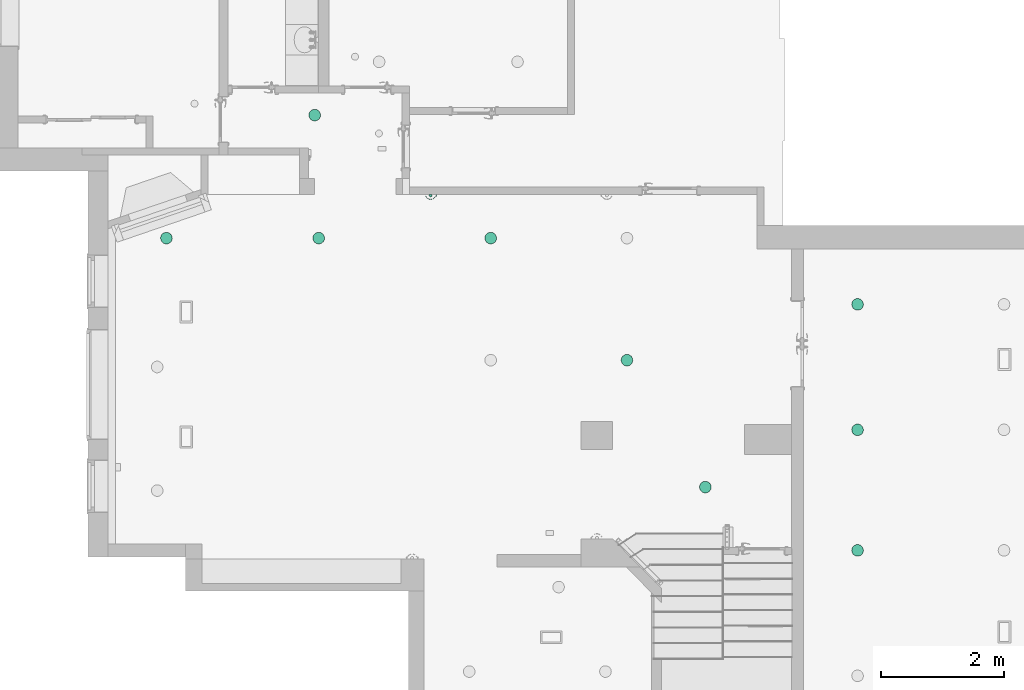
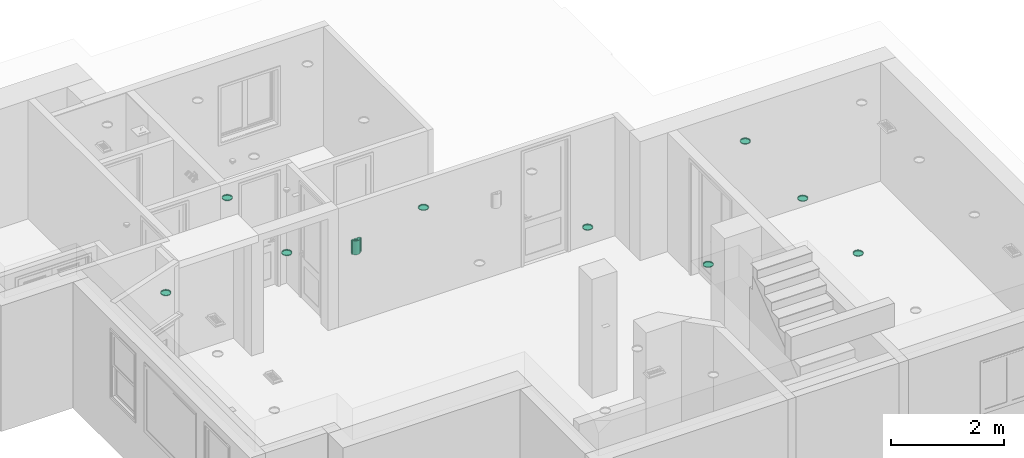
# One storey, part 15 of 24: 10 flow terminals.
"""IFC2X3 building model written with IfcOpenShell, lengths in inches."""

from ifc_helpers import new_model, entity, si_unit, converted_unit, derived_unit, money_unit, direction, frame, origin_with_axes, place, context, subcontext, project, spatial, open_shell, faceted_brep, surface_model, source, transform, mapped, type_object, element, save


model = new_model("IFC2X3")

# Units and contexts
model_context = context("Model", 3, precision=0.000393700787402, world=origin_with_axes(), true_north=direction((0.0, 1.0)))
body_context = subcontext(model_context, "Body", "Model", "MODEL_VIEW")
ifc_project = project(units=[converted_unit("LENGTHUNIT", "INCH", entity("IfcPositiveLengthMeasure", 0.0254), si_unit("LENGTHUNIT", "METRE"), dimensions=[1, 0, 0, 0, 0, 0, 0]), converted_unit("AREAUNIT", "SQUARE_FOOT", entity("IfcPositiveLengthMeasure", 0.09290304), si_unit("AREAUNIT", "SQUARE_METRE"), dimensions=[2, 0, 0, 0, 0, 0, 0]), si_unit("PLANEANGLEUNIT", "RADIAN"), si_unit("SOLIDANGLEUNIT", "STERADIAN"), money_unit("USD"), converted_unit("TIMEUNIT", "Year", entity("IfcTimeMeasure", 31556926.0), si_unit("TIMEUNIT", "SECOND"), dimensions=[0, 0, 1, 0, 0, 0, 0]), si_unit("MASSUNIT", "GRAM", prefix="KILO"), si_unit("THERMODYNAMICTEMPERATUREUNIT", "DEGREE_CELSIUS"), si_unit("LUMINOUSINTENSITYUNIT", "LUMEN"), si_unit("ENERGYUNIT", "JOULE", prefix="MEGA"), derived_unit("THERMALCONDUCTANCEUNIT", [(si_unit("POWERUNIT", "WATT"), 1), (si_unit("LENGTHUNIT", "METRE"), -1), (si_unit("THERMODYNAMICTEMPERATUREUNIT", "KELVIN"), -1)]), derived_unit("SPECIFICHEATCAPACITYUNIT", [(si_unit("ENERGYUNIT", "JOULE"), 1), (si_unit("MASSUNIT", "GRAM", prefix="KILO"), -1), (si_unit("THERMODYNAMICTEMPERATUREUNIT", "KELVIN"), -1)]), derived_unit("MASSDENSITYUNIT", [(si_unit("MASSUNIT", "GRAM", prefix="KILO"), 1), (si_unit("VOLUMEUNIT", "CUBIC_METRE"), -1)])], contexts=[model_context])

# Site, building, storey
site_placement = place(None, origin_with_axes())
site = spatial("IfcSite", under=ifc_project, at=site_placement, Name="Site", CompositionType="ELEMENT")
building_placement = place(site_placement, origin_with_axes())
building = spatial("IfcBuilding", under=site, at=building_placement, Name="Building", CompositionType="ELEMENT")
storey_placement = place(building_placement, origin_with_axes())
storey = spatial("IfcBuildingStorey", under=building, at=storey_placement, Name="First Floor", CompositionType="ELEMENT", Elevation=0.0)

# Flow terminals
light_fixture_type_1 = type_object("IfcLightFixtureType", Name="Recessed Spot 25", PredefinedType="NOTDEFINED")
shared_shape_1 = source(origin_with_axes(), body_context, "Body", "SurfaceModel", [
    faceted_brep([(3.74015748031, 0.0, -0.590551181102), (3.51459838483, 1.27920919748, -0.590551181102), (3.51459838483, 1.27920919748, 0.0), (3.74015748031, 0.0, 0.0), (3.51459838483, -1.27920919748, -0.590551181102), (2.86512685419, -2.40412688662, -0.590551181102), (1.87007874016, -3.23907139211, -0.590551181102), (0.649471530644, -3.6833360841, -0.590551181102), (-0.649471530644, -3.6833360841, -0.590551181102), (-1.87007874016, -3.23907139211, -0.590551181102), (-2.86512685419, -2.40412688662, -0.590551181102), (-3.51459838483, -1.27920919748, -0.590551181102), (-3.74015748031, 0.0, -0.590551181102), (-3.51459838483, 1.27920919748, -0.590551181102), (-2.86512685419, 2.40412688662, -0.590551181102), (-1.87007874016, 3.23907139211, -0.590551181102), (-0.649471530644, 3.6833360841, -0.590551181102), (0.649471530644, 3.6833360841, -0.590551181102), (1.87007874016, 3.23907139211, -0.590551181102), (2.86512685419, 2.40412688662, -0.590551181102), (3.14960629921, 0.0, -0.590551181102), (2.95966179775, 1.07722879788, -0.590551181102), (2.41273840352, 2.02452790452, -0.590551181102), (1.57480314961, 2.72763906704, -0.590551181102), (0.546923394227, 3.1017567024, -0.590551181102), (-0.546923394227, 3.1017567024, -0.590551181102), (-1.57480314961, 2.72763906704, -0.590551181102), (-2.41273840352, 2.02452790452, -0.590551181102), (-2.95966179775, 1.07722879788, -0.590551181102), (-3.14960629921, 0.0, -0.590551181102), (-2.95966179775, -1.07722879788, -0.590551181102), (-2.41273840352, -2.02452790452, -0.590551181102), (-1.57480314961, -2.72763906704, -0.590551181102), (-0.546923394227, -3.1017567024, -0.590551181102), (0.546923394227, -3.1017567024, -0.590551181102), (1.57480314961, -2.72763906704, -0.590551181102), (2.41273840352, -2.02452790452, -0.590551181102), (2.95966179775, -1.07722879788, -0.590551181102), (2.86512685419, 2.40412688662, 0.0), (1.87007874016, 3.23907139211, 0.0), (0.649471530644, 3.6833360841, 0.0), (-0.649471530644, 3.6833360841, 0.0), (-1.87007874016, 3.23907139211, 0.0), (-2.86512685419, 2.40412688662, 0.0), (-3.51459838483, 1.27920919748, 0.0), (-3.74015748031, 0.0, 0.0), (-3.51459838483, -1.27920919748, 0.0), (-2.86512685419, -2.40412688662, 0.0), (-1.87007874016, -3.23907139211, 0.0), (-0.649471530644, -3.6833360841, 0.0), (0.649471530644, -3.6833360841, 0.0), (1.87007874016, -3.23907139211, 0.0), (2.86512685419, -2.40412688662, 0.0), (3.51459838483, -1.27920919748, 0.0), (3.14960629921, 0.0, 0.0), (2.95966179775, -1.07722879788, 0.0), (2.41273840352, -2.02452790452, 0.0), (1.57480314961, -2.72763906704, 0.0), (0.546923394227, -3.1017567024, 0.0), (-0.546923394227, -3.1017567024, 0.0), (-1.57480314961, -2.72763906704, 0.0), (-2.41273840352, -2.02452790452, 0.0), (-2.95966179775, -1.07722879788, 0.0), (-3.14960629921, 0.0, 0.0), (-2.95966179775, 1.07722879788, 0.0), (-2.41273840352, 2.02452790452, 0.0), (-1.57480314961, 2.72763906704, 0.0), (-0.546923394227, 3.1017567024, 0.0), (0.546923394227, 3.1017567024, 0.0), (1.57480314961, 2.72763906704, 0.0), (2.41273840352, 2.02452790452, 0.0), (2.95966179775, 1.07722879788, 0.0)], [[[0, 1, 2, 3]], [[0, 4, 5, 6, 7, 8, 9, 10, 11, 12, 13, 14, 15, 16, 17, 18, 19, 1], [20, 21, 22, 23, 24, 25, 26, 27, 28, 29, 30, 31, 32, 33, 34, 35, 36, 37]], [[1, 19, 38, 2]], [[3, 2, 38, 39, 40, 41, 42, 43, 44, 45, 46, 47, 48, 49, 50, 51, 52, 53], [54, 55, 56, 57, 58, 59, 60, 61, 62, 63, 64, 65, 66, 67, 68, 69, 70, 71]], [[4, 0, 3, 53]], [[5, 4, 53, 52]], [[6, 5, 52, 51]], [[7, 6, 51, 50]], [[8, 7, 50, 49]], [[9, 8, 49, 48]], [[10, 9, 48, 47]], [[11, 10, 47, 46]], [[12, 11, 46, 45]], [[13, 12, 45, 44]], [[14, 13, 44, 43]], [[15, 14, 43, 42]], [[16, 15, 42, 41]], [[17, 16, 41, 40]], [[18, 17, 40, 39]], [[19, 18, 39, 38]], [[21, 20, 54, 71]], [[22, 21, 71, 70]], [[23, 22, 70, 69]], [[24, 23, 69, 68]], [[25, 24, 68, 67]], [[26, 25, 67, 66]], [[27, 26, 66, 65]], [[28, 27, 65, 64]], [[29, 28, 64, 63]], [[30, 29, 63, 62]], [[31, 30, 62, 61]], [[32, 31, 61, 60]], [[33, 32, 60, 59]], [[34, 33, 59, 58]], [[35, 34, 58, 57]], [[36, 35, 57, 56]], [[37, 36, 56, 55]], [[20, 37, 55, 54]]]),
    surface_model("IfcShellBasedSurfaceModel", [(3.14960629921, 0.0, -0.527559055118), (2.95966179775, -1.07722879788, -0.527559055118), (2.41273840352, -2.02452790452, -0.527559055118), (1.57480314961, -2.72763906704, -0.527559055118), (0.546923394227, -3.1017567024, -0.527559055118), (-0.546923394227, -3.1017567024, -0.527559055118), (-1.57480314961, -2.72763906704, -0.527559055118), (-2.41273840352, -2.02452790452, -0.527559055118), (-2.95966179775, -1.07722879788, -0.527559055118), (-3.14960629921, 0.0, -0.527559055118), (-2.95966179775, 1.07722879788, -0.527559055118), (-2.41273840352, 2.02452790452, -0.527559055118), (-1.57480314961, 2.72763906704, -0.527559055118), (-0.546923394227, 3.1017567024, -0.527559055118), (0.546923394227, 3.1017567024, -0.527559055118), (1.57480314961, 2.72763906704, -0.527559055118), (2.41273840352, 2.02452790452, -0.527559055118), (2.95966179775, 1.07722879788, -0.527559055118)], [open_shell([[[0, 1, 2, 3, 4, 5, 6, 7, 8, 9, 10, 11, 12, 13, 14, 15, 16, 17]]])]),
])
for number, where, z_axis, x_axis, name in (
    (1, (769.180563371, 143.034750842, 101.0), (0.0, 0.0, 1.0), (1.0, 0.0, 0.0), "L-03"),
    (2, (534.910431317, 342.454416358, 101.0), (0.0, 0.0, 1.0), (1.0, 0.0, 0.0), "L-03"),
    (3, (769.180563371, 300.121365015, 101.0), (0.0, 0.0, 1.0), (1.0, 0.0, 0.0), "L-03"),
    (4, (422.505793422, 420.990596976, 101.0), (0.0, 0.0, 1.0), (1.0, 0.0, 0.0), "L-03"),
    (5, (769.180563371, 220.003254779, 101.0), (0.0, 0.0, 1.0), (1.0, 0.0, 0.0), "L-03"),
    (6, (425.067911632, 342.454416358, 101.0), (0.0, 0.0, 1.0), (1.0, 0.0, 0.0), "L-03"),
    (7, (327.823817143, 342.454416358, 101.0), (0.0, 0.0, 1.0), (1.0, 0.0, 0.0), "L-03"),
    (8, (621.918305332, 264.501660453, 101.0), (0.0, 0.0, 1.0), (1.0, 0.0, 0.0), "L-03"),
    (9, (671.977393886, 183.468914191, 101.0), (0.0, 0.0, 1.0), (1.0, 0.0, 0.0), "L-03"),
):
    element("IfcFlowTerminal", number, at=place(storey_placement, frame(where, z_axis=z_axis, x_axis=x_axis)), inside=storey, type_object=light_fixture_type_1, Name=name, context=body_context, shape_type="MappedRepresentation", body=[
        mapped(shared_shape_1, transform((0.0, 0.0, 0.0))),
    ])
light_fixture_type_2 = type_object("IfcLightFixtureType", Name="Wall Lamp 25", PredefinedType="NOTDEFINED")
shared_shape_2 = source(origin_with_axes(), body_context, "Body", "Brep", [
    faceted_brep([(-3.93700787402, -1.06299212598, 0.0), (-3.93700787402, -1.06299212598, 11.811023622), (-3.59199112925, -1.06314352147, 11.811023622), (-3.59199112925, -1.06314352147, 0.0), (-3.93700787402, -1.1811023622, 0.0), (-3.93700787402, -1.1811023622, 11.811023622), (-3.54330708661, -1.1811023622, 11.811023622), (-3.38969265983, -1.19623206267, 11.811023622), (-3.24198154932, -1.24103973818, 11.811023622), (-3.10585021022, -1.31380345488, 11.811023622), (-2.98653009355, -1.41172694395, 11.811023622), (-2.66966529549, -1.94556474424, 11.811023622), (-2.25851711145, -2.41069189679, 11.811023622), (-1.76760587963, -2.7906817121, 11.811023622), (-1.2142688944, -3.0721142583, 11.811023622), (-0.618048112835, -3.24505030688, 11.811023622), (0.0, -3.30338235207, 11.811023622), (0.0, -3.14960629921, 11.811023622), (-0.56588522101, -3.09835339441, 11.811023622), (-1.11335337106, -2.94626273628, 11.811023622), (-1.6245867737, -2.6982842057, 11.811023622), (-2.0829470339, -2.3624884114, 11.811023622), (-2.47351654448, -1.94980402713, 11.811023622), (-2.78358398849, -1.47366211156, 11.811023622), (-2.90306916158, -1.32652027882, 11.811023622), (-3.0505358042, -1.20743621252, 11.811023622), (-3.21953891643, -1.12161445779, 11.811023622), (-3.40269225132, -1.07280583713, 11.811023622), (-3.40269225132, -1.07280583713, 0.0), (-3.21953891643, -1.12161445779, 0.0), (-3.0505358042, -1.20743621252, 0.0), (-2.90306916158, -1.32652027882, 0.0), (-2.78358398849, -1.47366211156, 0.0), (-2.47351654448, -1.94980402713, 0.0), (-2.0829470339, -2.3624884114, 0.0), (-1.6245867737, -2.6982842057, 0.0), (-1.11335337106, -2.94626273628, 0.0), (-0.56588522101, -3.09835339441, 0.0), (0.0, -3.14960629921, 0.0), (0.0, -3.30338235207, 0.0), (-0.618048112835, -3.24505030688, 0.0), (-1.2142688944, -3.0721142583, 0.0), (-1.76760587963, -2.7906817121, 0.0), (-2.25851711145, -2.41069189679, 0.0), (-2.66966529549, -1.94556474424, 0.0), (-2.98653009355, -1.41172694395, 0.0), (-3.10585021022, -1.31380345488, 0.0), (-3.24198154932, -1.24103973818, 0.0), (-3.38969265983, -1.19623206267, 0.0), (-3.54330708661, -1.1811023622, 0.0)], [[[0, 1, 2, 3]], [[4, 5, 1, 0]], [[1, 5, 6, 7, 8, 9, 10, 11, 12, 13, 14, 15, 16, 17, 18, 19, 20, 21, 22, 23, 24, 25, 26, 27, 2]], [[3, 2, 27, 28]], [[0, 3, 28, 29, 30, 31, 32, 33, 34, 35, 36, 37, 38, 39, 40, 41, 42, 43, 44, 45, 46, 47, 48, 49, 4]], [[49, 6, 5, 4]], [[48, 7, 6, 49]], [[47, 8, 7, 48]], [[46, 9, 8, 47]], [[45, 10, 9, 46]], [[44, 11, 10, 45]], [[43, 12, 11, 44]], [[42, 13, 12, 43]], [[41, 14, 13, 42]], [[40, 15, 14, 41]], [[39, 16, 15, 40]], [[38, 17, 16, 39]], [[37, 18, 17, 38]], [[36, 19, 18, 37]], [[35, 20, 19, 36]], [[34, 21, 20, 35]], [[33, 22, 21, 34]], [[32, 23, 22, 33]], [[31, 24, 23, 32]], [[30, 25, 24, 31]], [[29, 26, 25, 30]], [[28, 27, 26, 29]]]),
    faceted_brep([(3.93700787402, -1.06299212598, 0.0), (3.59199112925, -1.06314352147, 0.0), (3.59199112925, -1.06314352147, 11.811023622), (3.93700787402, -1.06299212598, 11.811023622), (3.93700787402, -1.1811023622, 0.0), (3.54330708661, -1.1811023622, 0.0), (3.38969265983, -1.19623206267, 0.0), (3.24198154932, -1.24103973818, 0.0), (3.10585021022, -1.31380345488, 0.0), (2.98653009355, -1.41172694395, 0.0), (2.66966529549, -1.94556474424, 0.0), (2.25851711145, -2.41069189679, 0.0), (1.76760587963, -2.7906817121, 0.0), (1.2142688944, -3.0721142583, 0.0), (0.618048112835, -3.24505030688, 0.0), (0.0, -3.30338235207, 0.0), (0.0, -3.14960629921, 0.0), (0.56588522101, -3.09835339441, 0.0), (1.11335337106, -2.94626273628, 0.0), (1.6245867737, -2.6982842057, 0.0), (2.0829470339, -2.3624884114, 0.0), (2.47351654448, -1.94980402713, 0.0), (2.78358398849, -1.47366211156, 0.0), (2.90306916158, -1.32652027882, 0.0), (3.0505358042, -1.20743621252, 0.0), (3.21953891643, -1.12161445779, 0.0), (3.40269225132, -1.07280583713, 0.0), (3.40269225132, -1.07280583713, 11.811023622), (3.21953891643, -1.12161445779, 11.811023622), (3.0505358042, -1.20743621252, 11.811023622), (2.90306916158, -1.32652027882, 11.811023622), (2.78358398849, -1.47366211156, 11.811023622), (2.47351654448, -1.94980402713, 11.811023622), (2.0829470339, -2.3624884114, 11.811023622), (1.6245867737, -2.6982842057, 11.811023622), (1.11335337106, -2.94626273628, 11.811023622), (0.56588522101, -3.09835339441, 11.811023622), (0.0, -3.14960629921, 11.811023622), (0.0, -3.30338235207, 11.811023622), (0.618048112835, -3.24505030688, 11.811023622), (1.2142688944, -3.0721142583, 11.811023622), (1.76760587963, -2.7906817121, 11.811023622), (2.25851711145, -2.41069189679, 11.811023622), (2.66966529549, -1.94556474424, 11.811023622), (2.98653009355, -1.41172694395, 11.811023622), (3.10585021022, -1.31380345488, 11.811023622), (3.24198154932, -1.24103973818, 11.811023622), (3.38969265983, -1.19623206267, 11.811023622), (3.54330708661, -1.1811023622, 11.811023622), (3.93700787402, -1.1811023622, 11.811023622)], [[[0, 1, 2, 3]], [[0, 4, 5, 6, 7, 8, 9, 10, 11, 12, 13, 14, 15, 16, 17, 18, 19, 20, 21, 22, 23, 24, 25, 26, 1]], [[1, 26, 27, 2]], [[3, 2, 27, 28, 29, 30, 31, 32, 33, 34, 35, 36, 37, 38, 39, 40, 41, 42, 43, 44, 45, 46, 47, 48, 49]], [[4, 0, 3, 49]], [[5, 4, 49, 48]], [[6, 5, 48, 47]], [[7, 6, 47, 46]], [[8, 7, 46, 45]], [[9, 8, 45, 44]], [[10, 9, 44, 43]], [[11, 10, 43, 42]], [[12, 11, 42, 41]], [[13, 12, 41, 40]], [[14, 13, 40, 39]], [[15, 14, 39, 38]], [[16, 15, 38, 37]], [[17, 16, 37, 36]], [[18, 17, 36, 35]], [[19, 18, 35, 34]], [[20, 19, 34, 33]], [[21, 20, 33, 32]], [[22, 21, 32, 31]], [[23, 22, 31, 30]], [[24, 23, 30, 29]], [[25, 24, 29, 28]], [[26, 25, 28, 27]]]),
    faceted_brep([(-3.14960629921, 0.0, 0.0), (3.14960629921, 0.0, 0.0), (3.14960629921, -0.0393700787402, 0.0), (-3.14960629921, -0.0393700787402, 0.0), (-3.303220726, 0.0, 0.0151297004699), (-3.45093183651, 0.0, 0.0599373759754), (-3.58706317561, 0.0, 0.132701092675), (-3.70638329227, 0.0, 0.230624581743), (-3.80430678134, 0.0, 0.34994469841), (-3.87707049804, 0.0, 0.486076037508), (-3.92187817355, 0.0, 0.633787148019), (-3.93700787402, 0.0, 0.787401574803), (-3.93700787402, 0.0, 11.0236220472), (-3.92187817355, 0.0, 11.177236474), (-3.87707049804, 0.0, 11.3249475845), (-3.80430678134, 0.0, 11.4610789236), (-3.70638329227, 0.0, 11.5803990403), (-3.58706317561, 0.0, 11.6783225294), (-3.45093183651, 0.0, 11.7510862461), (-3.303220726, 0.0, 11.7958939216), (-3.14960629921, 0.0, 11.811023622), (3.14960629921, 0.0, 11.811023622), (3.303220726, 0.0, 11.7958939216), (3.45093183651, 0.0, 11.7510862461), (3.58706317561, 0.0, 11.6783225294), (3.70638329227, 0.0, 11.5803990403), (3.80430678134, 0.0, 11.4610789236), (3.87707049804, 0.0, 11.3249475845), (3.92187817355, 0.0, 11.177236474), (3.93700787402, 0.0, 11.0236220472), (3.93700787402, 0.0, 0.787401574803), (3.92187817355, 0.0, 0.633787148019), (3.87707049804, 0.0, 0.486076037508), (3.80430678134, 0.0, 0.34994469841), (3.70638329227, 0.0, 0.230624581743), (3.58706317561, 0.0, 0.132701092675), (3.45093183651, 0.0, 0.0599373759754), (3.303220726, 0.0, 0.0151297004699), (3.303220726, -0.0393700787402, 0.0151297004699), (3.45093183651, -0.0393700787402, 0.0599373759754), (3.58706317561, -0.0393700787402, 0.132701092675), (3.70638329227, -0.0393700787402, 0.230624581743), (3.80430678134, -0.0393700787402, 0.34994469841), (3.87707049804, -0.0393700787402, 0.486076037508), (3.92187817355, -0.0393700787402, 0.633787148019), (3.93700787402, -0.0393700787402, 0.787401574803), (3.93700787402, -0.0393700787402, 11.0236220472), (3.92187817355, -0.0393700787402, 11.177236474), (3.87707049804, -0.0393700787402, 11.3249475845), (3.80430678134, -0.0393700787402, 11.4610789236), (3.70638329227, -0.0393700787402, 11.5803990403), (3.58706317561, -0.0393700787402, 11.6783225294), (3.45093183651, -0.0393700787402, 11.7510862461), (3.303220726, -0.0393700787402, 11.7958939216), (3.14960629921, -0.0393700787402, 11.811023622), (-3.14960629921, -0.0393700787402, 11.811023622), (-3.303220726, -0.0393700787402, 11.7958939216), (-3.45093183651, -0.0393700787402, 11.7510862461), (-3.58706317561, -0.0393700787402, 11.6783225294), (-3.70638329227, -0.0393700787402, 11.5803990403), (-3.80430678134, -0.0393700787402, 11.4610789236), (-3.87707049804, -0.0393700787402, 11.3249475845), (-3.92187817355, -0.0393700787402, 11.177236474), (-3.93700787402, -0.0393700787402, 11.0236220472), (-3.93700787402, -0.0393700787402, 0.787401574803), (-3.92187817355, -0.0393700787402, 0.633787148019), (-3.87707049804, -0.0393700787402, 0.486076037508), (-3.80430678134, -0.0393700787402, 0.34994469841), (-3.70638329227, -0.0393700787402, 0.230624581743), (-3.58706317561, -0.0393700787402, 0.132701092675), (-3.45093183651, -0.0393700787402, 0.0599373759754), (-3.303220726, -0.0393700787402, 0.0151297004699)], [[[0, 1, 2, 3]], [[0, 4, 5, 6, 7, 8, 9, 10, 11, 12, 13, 14, 15, 16, 17, 18, 19, 20, 21, 22, 23, 24, 25, 26, 27, 28, 29, 30, 31, 32, 33, 34, 35, 36, 37, 1]], [[1, 37, 38, 2]], [[3, 2, 38, 39, 40, 41, 42, 43, 44, 45, 46, 47, 48, 49, 50, 51, 52, 53, 54, 55, 56, 57, 58, 59, 60, 61, 62, 63, 64, 65, 66, 67, 68, 69, 70, 71]], [[4, 0, 3, 71]], [[5, 4, 71, 70]], [[6, 5, 70, 69]], [[7, 6, 69, 68]], [[8, 7, 68, 67]], [[9, 8, 67, 66]], [[10, 9, 66, 65]], [[11, 10, 65, 64]], [[12, 11, 64, 63]], [[13, 12, 63, 62]], [[14, 13, 62, 61]], [[15, 14, 61, 60]], [[16, 15, 60, 59]], [[17, 16, 59, 58]], [[18, 17, 58, 57]], [[19, 18, 57, 56]], [[20, 19, 56, 55]], [[21, 20, 55, 54]], [[22, 21, 54, 53]], [[23, 22, 53, 52]], [[24, 23, 52, 51]], [[25, 24, 51, 50]], [[26, 25, 50, 49]], [[27, 26, 49, 48]], [[28, 27, 48, 47]], [[29, 28, 47, 46]], [[30, 29, 46, 45]], [[31, 30, 45, 44]], [[32, 31, 44, 43]], [[33, 32, 43, 42]], [[34, 33, 42, 41]], [[35, 34, 41, 40]], [[36, 35, 40, 39]], [[37, 36, 39, 38]]]),
    faceted_brep([(-3.66141732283, -0.0393700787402, 0.393700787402), (-3.66141732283, -1.22047244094, 0.393700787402), (-3.60236220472, -1.22047244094, 0.495987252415), (-3.60236220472, -0.0393700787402, 0.495987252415), (-3.60236220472, -0.0393700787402, 0.291414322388), (-3.60236220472, -1.22047244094, 0.291414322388), (-3.4842519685, -1.22047244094, 0.291414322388), (-3.42519685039, -1.22047244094, 0.393700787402), (-3.4842519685, -1.22047244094, 0.495987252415), (-3.4842519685, -0.0393700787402, 0.495987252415), (-3.42519685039, -0.0393700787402, 0.393700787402), (-3.4842519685, -0.0393700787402, 0.291414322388)], [[[0, 1, 2, 3]], [[4, 5, 1, 0]], [[1, 5, 6, 7, 8, 2]], [[3, 2, 8, 9]], [[0, 3, 9, 10, 11, 4]], [[11, 6, 5, 4]], [[10, 7, 6, 11]], [[9, 8, 7, 10]]]),
    faceted_brep([(3.42519685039, -0.0393700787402, 0.393700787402), (3.42519685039, -1.22047244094, 0.393700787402), (3.4842519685, -1.22047244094, 0.495987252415), (3.4842519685, -0.0393700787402, 0.495987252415), (3.4842519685, -0.0393700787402, 0.291414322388), (3.4842519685, -1.22047244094, 0.291414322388), (3.60236220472, -1.22047244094, 0.291414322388), (3.66141732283, -1.22047244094, 0.393700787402), (3.60236220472, -1.22047244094, 0.495987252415), (3.60236220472, -0.0393700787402, 0.495987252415), (3.66141732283, -0.0393700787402, 0.393700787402), (3.60236220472, -0.0393700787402, 0.291414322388)], [[[0, 1, 2, 3]], [[4, 5, 1, 0]], [[1, 5, 6, 7, 8, 2]], [[3, 2, 8, 9]], [[0, 3, 9, 10, 11, 4]], [[11, 6, 5, 4]], [[10, 7, 6, 11]], [[9, 8, 7, 10]]]),
    faceted_brep([(-3.66141732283, -0.0393700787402, 11.4173228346), (-3.66141732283, -1.22047244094, 11.4173228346), (-3.60236220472, -1.22047244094, 11.5196092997), (-3.60236220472, -0.0393700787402, 11.5196092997), (-3.60236220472, -0.0393700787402, 11.3150363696), (-3.60236220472, -1.22047244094, 11.3150363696), (-3.4842519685, -1.22047244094, 11.3150363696), (-3.42519685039, -1.22047244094, 11.4173228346), (-3.4842519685, -1.22047244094, 11.5196092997), (-3.4842519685, -0.0393700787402, 11.5196092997), (-3.42519685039, -0.0393700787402, 11.4173228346), (-3.4842519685, -0.0393700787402, 11.3150363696)], [[[0, 1, 2, 3]], [[4, 5, 1, 0]], [[1, 5, 6, 7, 8, 2]], [[3, 2, 8, 9]], [[0, 3, 9, 10, 11, 4]], [[11, 6, 5, 4]], [[10, 7, 6, 11]], [[9, 8, 7, 10]]]),
    faceted_brep([(3.42519685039, -0.0393700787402, 11.4173228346), (3.42519685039, -1.22047244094, 11.4173228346), (3.4842519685, -1.22047244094, 11.5196092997), (3.4842519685, -0.0393700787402, 11.5196092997), (3.4842519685, -0.0393700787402, 11.3150363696), (3.4842519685, -1.22047244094, 11.3150363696), (3.60236220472, -1.22047244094, 11.3150363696), (3.66141732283, -1.22047244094, 11.4173228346), (3.60236220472, -1.22047244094, 11.5196092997), (3.60236220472, -0.0393700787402, 11.5196092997), (3.66141732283, -0.0393700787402, 11.4173228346), (3.60236220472, -0.0393700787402, 11.3150363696)], [[[0, 1, 2, 3]], [[4, 5, 1, 0]], [[1, 5, 6, 7, 8, 2]], [[3, 2, 8, 9]], [[0, 3, 9, 10, 11, 4]], [[11, 6, 5, 4]], [[10, 7, 6, 11]], [[9, 8, 7, 10]]]),
    faceted_brep([(0.787401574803, -0.0393700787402, 0.0), (0.787401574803, -0.0393700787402, 0.984251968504), (0.889578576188, -0.208730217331, 0.984251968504), (0.889578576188, -0.208730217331, 0.0), (-0.787401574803, -0.0393700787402, 0.0), (-0.787401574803, -0.0393700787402, 0.984251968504), (-0.889578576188, -0.208730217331, 0.984251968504), (-0.955829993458, -0.39510013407, 0.984251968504), (-0.983480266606, -0.590953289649, 0.984251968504), (-0.9714127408, -0.78838016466, 0.984251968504), (-0.920114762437, -0.979407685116, 0.984251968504), (-0.83165799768, -1.15632121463, 0.984251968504), (-0.709614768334, -1.31197610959, 0.984251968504), (-0.558913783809, -1.44008625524, 0.984251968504), (-0.385641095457, -1.53547793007, 0.984251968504), (-0.196794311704, -1.5942987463, 0.984251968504), (0.0, -1.61417322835, 0.984251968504), (0.196794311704, -1.5942987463, 0.984251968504), (0.385641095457, -1.53547793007, 0.984251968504), (0.558913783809, -1.44008625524, 0.984251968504), (0.709614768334, -1.31197610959, 0.984251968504), (0.83165799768, -1.15632121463, 0.984251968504), (0.920114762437, -0.979407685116, 0.984251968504), (0.9714127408, -0.78838016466, 0.984251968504), (0.983480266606, -0.590953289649, 0.984251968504), (0.955829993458, -0.39510013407, 0.984251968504), (0.955829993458, -0.39510013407, 0.0), (0.983480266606, -0.590953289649, 0.0), (0.9714127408, -0.78838016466, 0.0), (0.920114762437, -0.979407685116, 0.0), (0.83165799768, -1.15632121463, 0.0), (0.709614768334, -1.31197610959, 0.0), (0.558913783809, -1.44008625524, 0.0), (0.385641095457, -1.53547793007, 0.0), (0.196794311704, -1.5942987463, 0.0), (0.0, -1.61417322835, 0.0), (-0.196794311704, -1.5942987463, 0.0), (-0.385641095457, -1.53547793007, 0.0), (-0.558913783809, -1.44008625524, 0.0), (-0.709614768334, -1.31197610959, 0.0), (-0.83165799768, -1.15632121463, 0.0), (-0.920114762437, -0.979407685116, 0.0), (-0.9714127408, -0.78838016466, 0.0), (-0.983480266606, -0.590953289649, 0.0), (-0.955829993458, -0.39510013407, 0.0), (-0.889578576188, -0.208730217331, 0.0)], [[[0, 1, 2, 3]], [[4, 5, 1, 0]], [[1, 5, 6, 7, 8, 9, 10, 11, 12, 13, 14, 15, 16, 17, 18, 19, 20, 21, 22, 23, 24, 25, 2]], [[3, 2, 25, 26]], [[0, 3, 26, 27, 28, 29, 30, 31, 32, 33, 34, 35, 36, 37, 38, 39, 40, 41, 42, 43, 44, 45, 4]], [[45, 6, 5, 4]], [[44, 7, 6, 45]], [[43, 8, 7, 44]], [[42, 9, 8, 43]], [[41, 10, 9, 42]], [[40, 11, 10, 41]], [[39, 12, 11, 40]], [[38, 13, 12, 39]], [[37, 14, 13, 38]], [[36, 15, 14, 37]], [[35, 16, 15, 36]], [[34, 17, 16, 35]], [[33, 18, 17, 34]], [[32, 19, 18, 33]], [[31, 20, 19, 32]], [[30, 21, 20, 31]], [[29, 22, 21, 30]], [[28, 23, 22, 29]], [[27, 24, 23, 28]], [[26, 25, 24, 27]]]),
    faceted_brep([(0.787401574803, -0.0393700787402, 10.8267716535), (0.787401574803, -0.0393700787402, 11.811023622), (0.889578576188, -0.208730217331, 11.811023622), (0.889578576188, -0.208730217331, 10.8267716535), (-0.787401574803, -0.0393700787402, 10.8267716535), (-0.787401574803, -0.0393700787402, 11.811023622), (-0.889578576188, -0.208730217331, 11.811023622), (-0.955829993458, -0.39510013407, 11.811023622), (-0.983480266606, -0.590953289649, 11.811023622), (-0.9714127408, -0.78838016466, 11.811023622), (-0.920114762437, -0.979407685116, 11.811023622), (-0.83165799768, -1.15632121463, 11.811023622), (-0.709614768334, -1.31197610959, 11.811023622), (-0.558913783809, -1.44008625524, 11.811023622), (-0.385641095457, -1.53547793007, 11.811023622), (-0.196794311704, -1.5942987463, 11.811023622), (0.0, -1.61417322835, 11.811023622), (0.196794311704, -1.5942987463, 11.811023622), (0.385641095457, -1.53547793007, 11.811023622), (0.558913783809, -1.44008625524, 11.811023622), (0.709614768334, -1.31197610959, 11.811023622), (0.83165799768, -1.15632121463, 11.811023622), (0.920114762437, -0.979407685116, 11.811023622), (0.9714127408, -0.78838016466, 11.811023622), (0.983480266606, -0.590953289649, 11.811023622), (0.955829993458, -0.39510013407, 11.811023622), (0.955829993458, -0.39510013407, 10.8267716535), (0.983480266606, -0.590953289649, 10.8267716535), (0.9714127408, -0.78838016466, 10.8267716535), (0.920114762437, -0.979407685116, 10.8267716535), (0.83165799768, -1.15632121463, 10.8267716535), (0.709614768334, -1.31197610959, 10.8267716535), (0.558913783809, -1.44008625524, 10.8267716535), (0.385641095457, -1.53547793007, 10.8267716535), (0.196794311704, -1.5942987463, 10.8267716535), (0.0, -1.61417322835, 10.8267716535), (-0.196794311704, -1.5942987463, 10.8267716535), (-0.385641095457, -1.53547793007, 10.8267716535), (-0.558913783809, -1.44008625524, 10.8267716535), (-0.709614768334, -1.31197610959, 10.8267716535), (-0.83165799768, -1.15632121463, 10.8267716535), (-0.920114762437, -0.979407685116, 10.8267716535), (-0.9714127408, -0.78838016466, 10.8267716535), (-0.983480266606, -0.590953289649, 10.8267716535), (-0.955829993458, -0.39510013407, 10.8267716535), (-0.889578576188, -0.208730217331, 10.8267716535)], [[[0, 1, 2, 3]], [[4, 5, 1, 0]], [[1, 5, 6, 7, 8, 9, 10, 11, 12, 13, 14, 15, 16, 17, 18, 19, 20, 21, 22, 23, 24, 25, 2]], [[3, 2, 25, 26]], [[0, 3, 26, 27, 28, 29, 30, 31, 32, 33, 34, 35, 36, 37, 38, 39, 40, 41, 42, 43, 44, 45, 4]], [[45, 6, 5, 4]], [[44, 7, 6, 45]], [[43, 8, 7, 44]], [[42, 9, 8, 43]], [[41, 10, 9, 42]], [[40, 11, 10, 41]], [[39, 12, 11, 40]], [[38, 13, 12, 39]], [[37, 14, 13, 38]], [[36, 15, 14, 37]], [[35, 16, 15, 36]], [[34, 17, 16, 35]], [[33, 18, 17, 34]], [[32, 19, 18, 33]], [[31, 20, 19, 32]], [[30, 21, 20, 31]], [[29, 22, 21, 30]], [[28, 23, 22, 29]], [[27, 24, 23, 28]], [[26, 25, 24, 27]]]),
    faceted_brep([(0.787401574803, -0.0393700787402, 0.984251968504), (0.787401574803, -0.0393700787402, 10.8267716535), (0.889578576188, -0.208730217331, 10.8267716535), (0.889578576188, -0.208730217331, 0.984251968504), (-0.787401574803, -0.0393700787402, 0.984251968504), (-0.787401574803, -0.0393700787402, 10.8267716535), (-0.889578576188, -0.208730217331, 10.8267716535), (-0.955829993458, -0.39510013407, 10.8267716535), (-0.983480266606, -0.590953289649, 10.8267716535), (-0.9714127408, -0.78838016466, 10.8267716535), (-0.920114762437, -0.979407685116, 10.8267716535), (-0.83165799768, -1.15632121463, 10.8267716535), (-0.709614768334, -1.31197610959, 10.8267716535), (-0.558913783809, -1.44008625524, 10.8267716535), (-0.385641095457, -1.53547793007, 10.8267716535), (-0.196794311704, -1.5942987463, 10.8267716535), (0.0, -1.61417322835, 10.8267716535), (0.196794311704, -1.5942987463, 10.8267716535), (0.385641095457, -1.53547793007, 10.8267716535), (0.558913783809, -1.44008625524, 10.8267716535), (0.709614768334, -1.31197610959, 10.8267716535), (0.83165799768, -1.15632121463, 10.8267716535), (0.920114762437, -0.979407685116, 10.8267716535), (0.9714127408, -0.78838016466, 10.8267716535), (0.983480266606, -0.590953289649, 10.8267716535), (0.955829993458, -0.39510013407, 10.8267716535), (0.955829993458, -0.39510013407, 0.984251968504), (0.983480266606, -0.590953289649, 0.984251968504), (0.9714127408, -0.78838016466, 0.984251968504), (0.920114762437, -0.979407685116, 0.984251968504), (0.83165799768, -1.15632121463, 0.984251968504), (0.709614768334, -1.31197610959, 0.984251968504), (0.558913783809, -1.44008625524, 0.984251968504), (0.385641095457, -1.53547793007, 0.984251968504), (0.196794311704, -1.5942987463, 0.984251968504), (0.0, -1.61417322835, 0.984251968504), (-0.196794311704, -1.5942987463, 0.984251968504), (-0.385641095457, -1.53547793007, 0.984251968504), (-0.558913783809, -1.44008625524, 0.984251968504), (-0.709614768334, -1.31197610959, 0.984251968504), (-0.83165799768, -1.15632121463, 0.984251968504), (-0.920114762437, -0.979407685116, 0.984251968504), (-0.9714127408, -0.78838016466, 0.984251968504), (-0.983480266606, -0.590953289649, 0.984251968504), (-0.955829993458, -0.39510013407, 0.984251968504), (-0.889578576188, -0.208730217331, 0.984251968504)], [[[0, 1, 2, 3]], [[4, 5, 1, 0]], [[1, 5, 6, 7, 8, 9, 10, 11, 12, 13, 14, 15, 16, 17, 18, 19, 20, 21, 22, 23, 24, 25, 2]], [[3, 2, 25, 26]], [[0, 3, 26, 27, 28, 29, 30, 31, 32, 33, 34, 35, 36, 37, 38, 39, 40, 41, 42, 43, 44, 45, 4]], [[45, 6, 5, 4]], [[44, 7, 6, 45]], [[43, 8, 7, 44]], [[42, 9, 8, 43]], [[41, 10, 9, 42]], [[40, 11, 10, 41]], [[39, 12, 11, 40]], [[38, 13, 12, 39]], [[37, 14, 13, 38]], [[36, 15, 14, 37]], [[35, 16, 15, 36]], [[34, 17, 16, 35]], [[33, 18, 17, 34]], [[32, 19, 18, 33]], [[31, 20, 19, 32]], [[30, 21, 20, 31]], [[29, 22, 21, 30]], [[28, 23, 22, 29]], [[27, 24, 23, 28]], [[26, 25, 24, 27]]]),
])
flow_terminal_placement = place(storey_placement, frame((496.524604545, 370.407186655, 59.0551181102), z_axis=(0.0, 0.0, 1.0), x_axis=(1.0, -1.24275885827e-07, 0.0)))
element("IfcFlowTerminal", 10, at=flow_terminal_placement, inside=storey, type_object=light_fixture_type_2, Name="L-17", context=body_context, shape_type="MappedRepresentation", body=[
    mapped(shared_shape_2, transform((0.0, 0.0, 0.0))),
])

save(model, "model.ifc")
